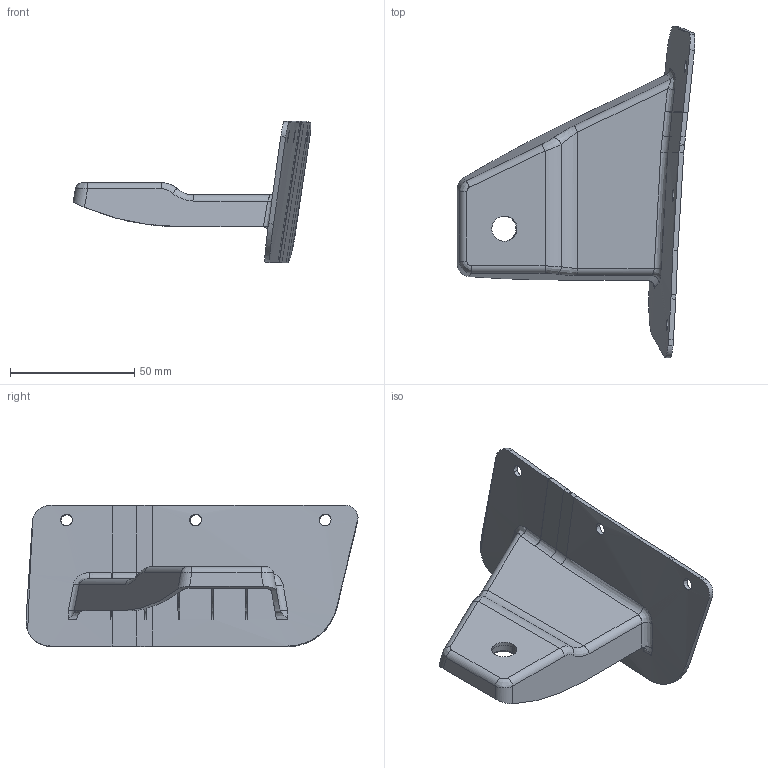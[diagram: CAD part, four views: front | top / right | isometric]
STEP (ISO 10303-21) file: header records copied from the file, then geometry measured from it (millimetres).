
FILE_DESCRIPTION(/* description */ (''),/* implementation_level */ '2;1');
FILE_NAME(/* name */ '767496296R_KIT-RR LH WHL SHIELD-20260716_stp.stp',/* time_stamp */ '2026-07-17T15:35:13+08:00',/* author */ (''),/* organization */ (''),/* preprocessor_version */ 'ST-DEVELOPER v16.7',/* originating_system */ 'SIEMENS PLM Software NX 12.0',/* authorisation */ '');
FILE_SCHEMA (('AUTOMOTIVE_DESIGN { 1 0 10303 214 3 1 1 1 }'));
Length unit declared in the file: millimetre
Products named in the file (1): admi85D0E95Fb4t6
Bounding box: 95.66 x 133.5 x 56.81 mm (x, y, z)
Volume: 30367.3 mm3; surface area: 33118.7 mm2
Topology: 1 solids, 1 shells, 211 faces, 656 edges, 449 vertices
Faces by surface type: bspline 99, plane 70, cylinder 42
Entity records: 11714 total; most frequent: CARTESIAN_POINT 6962, ORIENTED_EDGE 1312, EDGE_CURVE 656, DIRECTION 486, VERTEX_POINT 449, B_SPLINE_CURVE_WITH_KNOTS 404, EDGE_LOOP 221, ADVANCED_FACE 211
